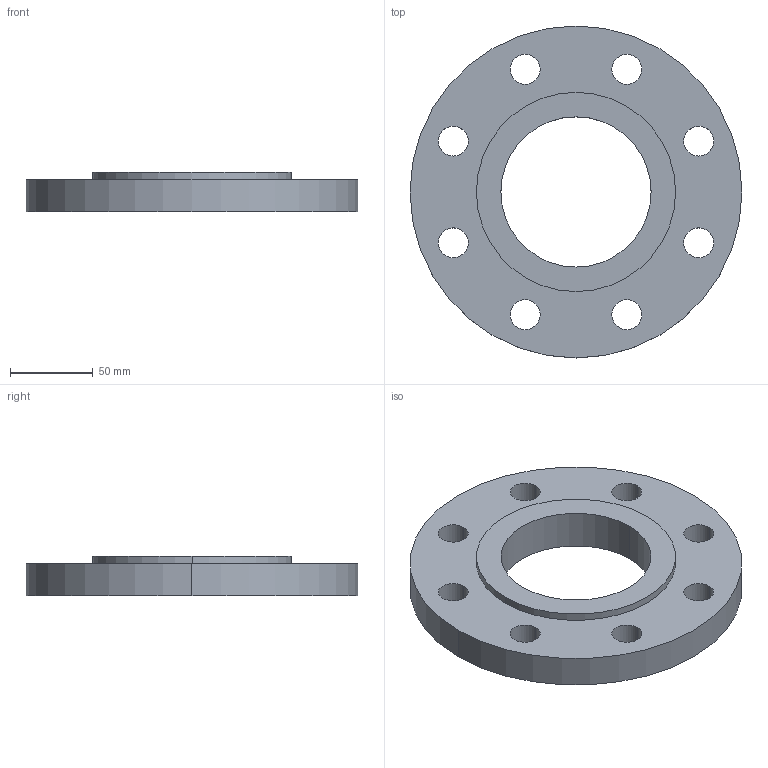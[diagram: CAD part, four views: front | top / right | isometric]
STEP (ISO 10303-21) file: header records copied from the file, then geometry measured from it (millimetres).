
FILE_DESCRIPTION (( 'STEP AP214' ), '1' );
FILE_NAME ('PN40 DN80 Type 01 - Type E Face.STEP', '2019-01-01T19:47:58', ( '' ), ( '' ), 'SwSTEP 2.0', 'SolidWorks 2019', '' );
FILE_SCHEMA (( 'AUTOMOTIVE_DESIGN' ));
Length unit declared in the file: millimetre
Products named in the file (1): PN40 DN80 Type 01 - Type E Face
Bounding box: 200 x 200 x 24 mm (x, y, z)
Volume: 469424.6 mm3; surface area: 75488.9 mm2
Topology: 1 solids, 1 shells, 25 faces, 66 edges, 44 vertices
Faces by surface type: cylinder 22, plane 3
Entity records: 874 total; most frequent: DIRECTION 162, CARTESIAN_POINT 136, ORIENTED_EDGE 132, AXIS2_PLACEMENT_3D 70, EDGE_CURVE 66, CIRCLE 44, VERTEX_POINT 44, EDGE_LOOP 44
